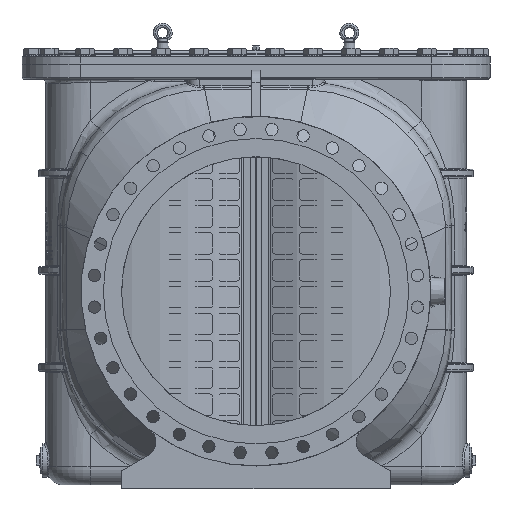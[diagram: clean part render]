
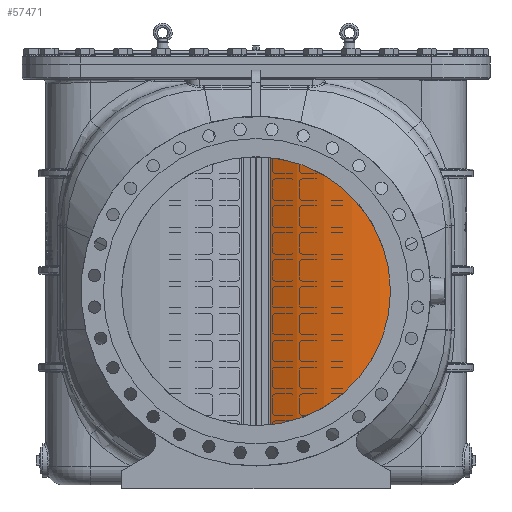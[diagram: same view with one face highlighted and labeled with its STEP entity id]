
A CAD part, front view. The second image highlights one B-rep face of the part: STEP entity #57471.
In plain terms, the highlighted cylindrical face has radius 592 mm (diameter 1184 mm), a partial arc.
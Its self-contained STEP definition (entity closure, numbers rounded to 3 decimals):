
#5451=LINE('',#119133,#9244);
#5453=LINE('',#119136,#9246);
#9244=VECTOR('',#74649,10.);
#9246=VECTOR('',#74653,10.);
#11232=CYLINDRICAL_SURFACE('',#62540,592.);
#15026=FACE_OUTER_BOUND('',#18791,.T.);
#18791=EDGE_LOOP('',(#50514,#50515,#50516,#50517));
#23532=CIRCLE('',#62529,592.);
#23535=CIRCLE('',#62534,592.);
#28207=VERTEX_POINT('',#119102);
#28208=VERTEX_POINT('',#119104);
#28212=VERTEX_POINT('',#119116);
#28213=VERTEX_POINT('',#119118);
#35830=EDGE_CURVE('',#28208,#28207,#23532,.T.);
#35837=EDGE_CURVE('',#28213,#28212,#23535,.T.);
#35845=EDGE_CURVE('',#28208,#28212,#5451,.T.);
#35847=EDGE_CURVE('',#28213,#28207,#5453,.T.);
#50514=ORIENTED_EDGE('',*,*,#35830,.T.);
#50515=ORIENTED_EDGE('',*,*,#35847,.F.);
#50516=ORIENTED_EDGE('',*,*,#35837,.T.);
#50517=ORIENTED_EDGE('',*,*,#35845,.F.);
#57471=ADVANCED_FACE('',(#15026),#11232,.T.);
#62529=AXIS2_PLACEMENT_3D('',#119105,#74620,#74621);
#62534=AXIS2_PLACEMENT_3D('',#119119,#74634,#74635);
#62540=AXIS2_PLACEMENT_3D('',#119135,#74651,#74652);
#74620=DIRECTION('center_axis',(0.,0.,-1.));
#74621=DIRECTION('ref_axis',(0.465,0.885,0.));
#74634=DIRECTION('center_axis',(0.,0.,
1.));
#74635=DIRECTION('ref_axis',(0.465,0.885,0.));
#74649=DIRECTION('',(0.,0.,-1.));
#74651=DIRECTION('center_axis',(0.,0.,1.));
#74652=DIRECTION('ref_axis',(0.465,0.885,0.));
#74653=DIRECTION('',(0.,0.,1.));
#119102=CARTESIAN_POINT('',(272.257,525.68,1364.));
#119104=CARTESIAN_POINT('',(-272.257,525.68,1364.));
#119105=CARTESIAN_POINT('Origin',(0.,0.,1364.));
#119116=CARTESIAN_POINT('',(-272.257,525.68,16.));
#119118=CARTESIAN_POINT('',(272.257,525.68,16.));
#119119=CARTESIAN_POINT('Origin',(0.,0.,16.));
#119133=CARTESIAN_POINT('',(-272.257,525.68,0.));
#119135=CARTESIAN_POINT('Origin',(0.,0.,0.));
#119136=CARTESIAN_POINT('',(272.257,525.68,0.));
